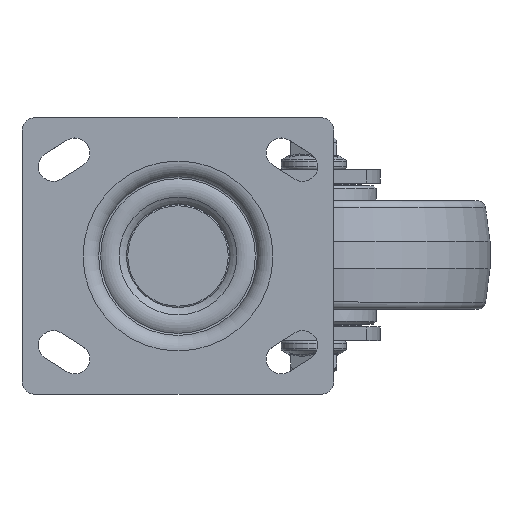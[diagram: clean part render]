
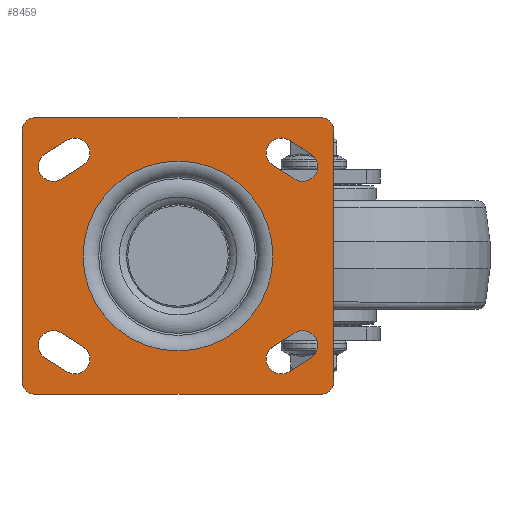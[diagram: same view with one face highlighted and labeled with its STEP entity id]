
A CAD part, top view. The second image highlights one B-rep face of the part: STEP entity #8459.
In plain terms, the highlighted planar face has unit normal (0, 0, 1).
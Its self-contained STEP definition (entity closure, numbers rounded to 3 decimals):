
#98=FACE_BOUND('',#1768,.T.);
#99=FACE_BOUND('',#1769,.T.);
#100=FACE_BOUND('',#1770,.T.);
#101=FACE_BOUND('',#1771,.T.);
#102=FACE_BOUND('',#1772,.T.);
#399=PLANE('',#9221);
#1191=FACE_OUTER_BOUND('',#1767,.T.);
#1767=EDGE_LOOP('',(#6311,#6312,#6313,#6314,#6315,#6316,#6317,#6318));
#1768=EDGE_LOOP('',(#6319,#6320,#6321,#6322));
#1769=EDGE_LOOP('',(#6323,#6324,#6325,#6326));
#1770=EDGE_LOOP('',(#6327,#6328,#6329,#6330));
#1771=EDGE_LOOP('',(#6331,#6332,#6333,#6334));
#1772=EDGE_LOOP('',(#6335));
#2296=LINE('',#14612,#2574);
#2300=LINE('',#14624,#2578);
#2305=LINE('',#14642,#2583);
#2309=LINE('',#14654,#2587);
#2313=LINE('',#14666,#2591);
#2317=LINE('',#14676,#2595);
#2320=LINE('',#14684,#2598);
#2324=LINE('',#14696,#2602);
#2328=LINE('',#14708,#2606);
#2332=LINE('',#14720,#2610);
#2341=LINE('',#14742,#2619);
#2345=LINE('',#14754,#2623);
#2574=VECTOR('',#10564,9.434);
#2578=VECTOR('',#10576,9.434);
#2583=VECTOR('',#10595,105.);
#2587=VECTOR('',#10607,92.);
#2591=VECTOR('',#10619,105.);
#2595=VECTOR('',#10631,92.);
#2598=VECTOR('',#10636,9.434);
#2602=VECTOR('',#10648,9.434);
#2606=VECTOR('',#10660,9.434);
#2610=VECTOR('',#10672,9.434);
#2619=VECTOR('',#10695,9.434);
#2623=VECTOR('',#10707,9.434);
#2870=CIRCLE('',#9142,35.);
#2890=CIRCLE('',#9172,5.5);
#2892=CIRCLE('',#9176,5.5);
#2894=CIRCLE('',#9179,5.);
#2896=CIRCLE('',#9183,5.);
#2898=CIRCLE('',#9187,5.);
#2900=CIRCLE('',#9191,5.);
#2902=CIRCLE('',#9196,5.5);
#2904=CIRCLE('',#9200,5.5);
#2906=CIRCLE('',#9204,5.5);
#2908=CIRCLE('',#9208,5.5);
#2910=CIRCLE('',#9215,5.5);
#2912=CIRCLE('',#9219,5.5);
#3543=VERTEX_POINT('',#14568);
#3555=VERTEX_POINT('',#14609);
#3556=VERTEX_POINT('',#14611);
#3558=VERTEX_POINT('',#14617);
#3560=VERTEX_POINT('',#14623);
#3563=VERTEX_POINT('',#14633);
#3564=VERTEX_POINT('',#14635);
#3566=VERTEX_POINT('',#14641);
#3568=VERTEX_POINT('',#14647);
#3570=VERTEX_POINT('',#14653);
#3572=VERTEX_POINT('',#14659);
#3574=VERTEX_POINT('',#14665);
#3576=VERTEX_POINT('',#14671);
#3579=VERTEX_POINT('',#14681);
#3580=VERTEX_POINT('',#14683);
#3582=VERTEX_POINT('',#14689);
#3584=VERTEX_POINT('',#14695);
#3587=VERTEX_POINT('',#14705);
#3588=VERTEX_POINT('',#14707);
#3590=VERTEX_POINT('',#14713);
#3592=VERTEX_POINT('',#14719);
#3597=VERTEX_POINT('',#14739);
#3598=VERTEX_POINT('',#14741);
#3600=VERTEX_POINT('',#14747);
#3602=VERTEX_POINT('',#14753);
#4481=EDGE_CURVE('',#3543,#3543,#2870,.T.);
#4502=EDGE_CURVE('',#3556,#3555,#2296,.T.);
#4505=EDGE_CURVE('',#3558,#3556,#2890,.T.);
#4508=EDGE_CURVE('',#3560,#3558,#2300,.T.);
#4511=EDGE_CURVE('',#3555,#3560,#2892,.T.);
#4514=EDGE_CURVE('',#3564,#3563,#2894,.T.);
#4517=EDGE_CURVE('',#3566,#3564,#2305,.T.);
#4520=EDGE_CURVE('',#3568,#3566,#2896,.T.);
#4523=EDGE_CURVE('',#3570,#3568,#2309,.T.);
#4526=EDGE_CURVE('',#3572,#3570,#2898,.T.);
#4529=EDGE_CURVE('',#3574,#3572,#2313,.T.);
#4532=EDGE_CURVE('',#3576,#3574,#2900,.T.);
#4535=EDGE_CURVE('',#3563,#3576,#2317,.T.);
#4538=EDGE_CURVE('',#3580,#3579,#2320,.T.);
#4541=EDGE_CURVE('',#3582,#3580,#2902,.T.);
#4544=EDGE_CURVE('',#3584,#3582,#2324,.T.);
#4547=EDGE_CURVE('',#3579,#3584,#2904,.T.);
#4550=EDGE_CURVE('',#3588,#3587,#2328,.T.);
#4553=EDGE_CURVE('',#3590,#3588,#2906,.T.);
#4556=EDGE_CURVE('',#3592,#3590,#2332,.T.);
#4559=EDGE_CURVE('',#3587,#3592,#2908,.T.);
#4567=EDGE_CURVE('',#3598,#3597,#2341,.T.);
#4570=EDGE_CURVE('',#3600,#3598,#2910,.T.);
#4573=EDGE_CURVE('',#3602,#3600,#2345,.T.);
#4576=EDGE_CURVE('',#3597,#3602,#2912,.T.);
#6311=ORIENTED_EDGE('',*,*,#4526,.T.);
#6312=ORIENTED_EDGE('',*,*,#4523,.T.);
#6313=ORIENTED_EDGE('',*,*,#4520,.T.);
#6314=ORIENTED_EDGE('',*,*,#4517,.T.);
#6315=ORIENTED_EDGE('',*,*,#4514,.T.);
#6316=ORIENTED_EDGE('',*,*,#4535,.T.);
#6317=ORIENTED_EDGE('',*,*,#4532,.T.);
#6318=ORIENTED_EDGE('',*,*,#4529,.T.);
#6319=ORIENTED_EDGE('',*,*,#4508,.T.);
#6320=ORIENTED_EDGE('',*,*,#4505,.T.);
#6321=ORIENTED_EDGE('',*,*,#4502,.T.);
#6322=ORIENTED_EDGE('',*,*,#4511,.T.);
#6323=ORIENTED_EDGE('',*,*,#4544,.T.);
#6324=ORIENTED_EDGE('',*,*,#4541,.T.);
#6325=ORIENTED_EDGE('',*,*,#4538,.T.);
#6326=ORIENTED_EDGE('',*,*,#4547,.T.);
#6327=ORIENTED_EDGE('',*,*,#4556,.T.);
#6328=ORIENTED_EDGE('',*,*,#4553,.T.);
#6329=ORIENTED_EDGE('',*,*,#4550,.T.);
#6330=ORIENTED_EDGE('',*,*,#4559,.T.);
#6331=ORIENTED_EDGE('',*,*,#4573,.T.);
#6332=ORIENTED_EDGE('',*,*,#4570,.T.);
#6333=ORIENTED_EDGE('',*,*,#4567,.T.);
#6334=ORIENTED_EDGE('',*,*,#4576,.T.);
#6335=ORIENTED_EDGE('',*,*,#4481,.T.);
#8459=ADVANCED_FACE('',(#1191,#98,#99,#100,#101,#102),#399,.T.);
#9142=AXIS2_PLACEMENT_3D('',#14569,#10506,#10507);
#9172=AXIS2_PLACEMENT_3D('',#14618,#10570,#10571);
#9176=AXIS2_PLACEMENT_3D('',#14628,#10582,#10583);
#9179=AXIS2_PLACEMENT_3D('',#14636,#10589,#10590);
#9183=AXIS2_PLACEMENT_3D('',#14648,#10601,#10602);
#9187=AXIS2_PLACEMENT_3D('',#14660,#10613,#10614);
#9191=AXIS2_PLACEMENT_3D('',#14672,#10625,#10626);
#9196=AXIS2_PLACEMENT_3D('',#14690,#10642,#10643);
#9200=AXIS2_PLACEMENT_3D('',#14700,#10654,#10655);
#9204=AXIS2_PLACEMENT_3D('',#14714,#10666,#10667);
#9208=AXIS2_PLACEMENT_3D('',#14724,#10678,#10679);
#9215=AXIS2_PLACEMENT_3D('',#14748,#10701,#10702);
#9219=AXIS2_PLACEMENT_3D('',#14758,#10713,#10714);
#9221=AXIS2_PLACEMENT_3D('',#14760,#10717,#10718);
#10506=DIRECTION('center_axis',(0.,0.,-1.));
#10507=DIRECTION('ref_axis',(1.,0.,0.));
#10564=DIRECTION('',(-0.848,0.53,0.));
#10570=DIRECTION('center_axis',(0.,0.,-1.));
#10571=DIRECTION('ref_axis',(1.,0.,0.));
#10576=DIRECTION('',(0.848,-0.53,0.));
#10582=DIRECTION('center_axis',(0.,0.,-1.));
#10583=DIRECTION('ref_axis',(1.,0.,0.));
#10589=DIRECTION('center_axis',(0.,0.,1.));
#10590=DIRECTION('ref_axis',(1.,0.,0.));
#10595=DIRECTION('',(1.,0.,0.));
#10601=DIRECTION('center_axis',(0.,0.,1.));
#10602=DIRECTION('ref_axis',(1.,0.,0.));
#10607=DIRECTION('',(0.,-1.,0.));
#10613=DIRECTION('center_axis',(0.,0.,1.));
#10614=DIRECTION('ref_axis',(1.,0.,0.));
#10619=DIRECTION('',(-1.,0.,0.));
#10625=DIRECTION('center_axis',(0.,0.,1.));
#10626=DIRECTION('ref_axis',(1.,0.,0.));
#10631=DIRECTION('',(0.,1.,0.));
#10636=DIRECTION('',(0.848,-0.53,0.));
#10642=DIRECTION('center_axis',(0.,0.,-1.));
#10643=DIRECTION('ref_axis',(1.,0.,0.));
#10648=DIRECTION('',(-0.848,0.53,0.));
#10654=DIRECTION('center_axis',(0.,0.,-1.));
#10655=DIRECTION('ref_axis',(1.,0.,0.));
#10660=DIRECTION('',(0.848,0.53,0.));
#10666=DIRECTION('center_axis',(0.,0.,-1.));
#10667=DIRECTION('ref_axis',(1.,0.,0.));
#10672=DIRECTION('',(-0.848,-0.53,0.));
#10678=DIRECTION('center_axis',(0.,0.,-1.));
#10679=DIRECTION('ref_axis',(1.,0.,0.));
#10695=DIRECTION('',(-0.848,-0.53,0.));
#10701=DIRECTION('center_axis',(0.,0.,-1.));
#10702=DIRECTION('ref_axis',(1.,0.,0.));
#10707=DIRECTION('',(0.848,0.53,0.));
#10713=DIRECTION('center_axis',(0.,0.,-1.));
#10714=DIRECTION('ref_axis',(1.,0.,0.));
#10717=DIRECTION('center_axis',(0.,0.,1.));
#10718=DIRECTION('ref_axis',(1.,0.,0.));
#14568=CARTESIAN_POINT('',(35.,0.,0.));
#14569=CARTESIAN_POINT('Origin',(0.,0.,0.));
#14609=CARTESIAN_POINT('',(35.085,33.336,0.));
#14611=CARTESIAN_POINT('',(43.085,28.336,0.));
#14612=CARTESIAN_POINT('',(43.085,28.336,0.));
#14617=CARTESIAN_POINT('',(48.915,37.664,0.));
#14618=CARTESIAN_POINT('Origin',(46.,33.,0.));
#14623=CARTESIAN_POINT('',(40.915,42.664,0.));
#14624=CARTESIAN_POINT('',(40.915,42.664,0.));
#14628=CARTESIAN_POINT('Origin',(38.,38.,0.));
#14633=CARTESIAN_POINT('',(57.5,-46.,0.));
#14635=CARTESIAN_POINT('',(52.5,-51.,0.));
#14636=CARTESIAN_POINT('Origin',(52.5,-46.,0.));
#14641=CARTESIAN_POINT('',(-52.5,-51.,0.));
#14642=CARTESIAN_POINT('',(-52.5,-51.,0.));
#14647=CARTESIAN_POINT('',(-57.5,-46.,0.));
#14648=CARTESIAN_POINT('Origin',(-52.5,-46.,0.));
#14653=CARTESIAN_POINT('',(-57.5,46.,0.));
#14654=CARTESIAN_POINT('',(-57.5,46.,0.));
#14659=CARTESIAN_POINT('',(-52.5,51.,0.));
#14660=CARTESIAN_POINT('Origin',(-52.5,46.,0.));
#14665=CARTESIAN_POINT('',(52.5,51.,0.));
#14666=CARTESIAN_POINT('',(52.5,51.,0.));
#14671=CARTESIAN_POINT('',(57.5,46.,0.));
#14672=CARTESIAN_POINT('Origin',(52.5,46.,0.));
#14676=CARTESIAN_POINT('',(57.5,-46.,0.));
#14681=CARTESIAN_POINT('',(-35.085,-33.336,0.));
#14683=CARTESIAN_POINT('',(-43.085,-28.336,0.));
#14684=CARTESIAN_POINT('',(-43.085,-28.336,0.));
#14689=CARTESIAN_POINT('',(-48.915,-37.664,0.));
#14690=CARTESIAN_POINT('Origin',(-46.,-33.,0.));
#14695=CARTESIAN_POINT('',(-40.915,-42.664,0.));
#14696=CARTESIAN_POINT('',(-40.915,-42.664,0.));
#14700=CARTESIAN_POINT('Origin',(-38.,-38.,0.));
#14705=CARTESIAN_POINT('',(-40.915,42.664,0.));
#14707=CARTESIAN_POINT('',(-48.915,37.664,0.));
#14708=CARTESIAN_POINT('',(-48.915,37.664,0.));
#14713=CARTESIAN_POINT('',(-43.085,28.336,0.));
#14714=CARTESIAN_POINT('Origin',(-46.,33.,0.));
#14719=CARTESIAN_POINT('',(-35.085,33.336,0.));
#14720=CARTESIAN_POINT('',(-35.085,33.336,0.));
#14724=CARTESIAN_POINT('Origin',(-38.,38.,0.));
#14739=CARTESIAN_POINT('',(40.915,-42.664,0.));
#14741=CARTESIAN_POINT('',(48.915,-37.664,0.));
#14742=CARTESIAN_POINT('',(48.915,-37.664,0.));
#14747=CARTESIAN_POINT('',(43.085,-28.336,0.));
#14748=CARTESIAN_POINT('Origin',(46.,-33.,0.));
#14753=CARTESIAN_POINT('',(35.085,-33.336,0.));
#14754=CARTESIAN_POINT('',(35.085,-33.336,0.));
#14758=CARTESIAN_POINT('Origin',(38.,-38.,0.));
#14760=CARTESIAN_POINT('Origin',(67.5,0.,0.));
